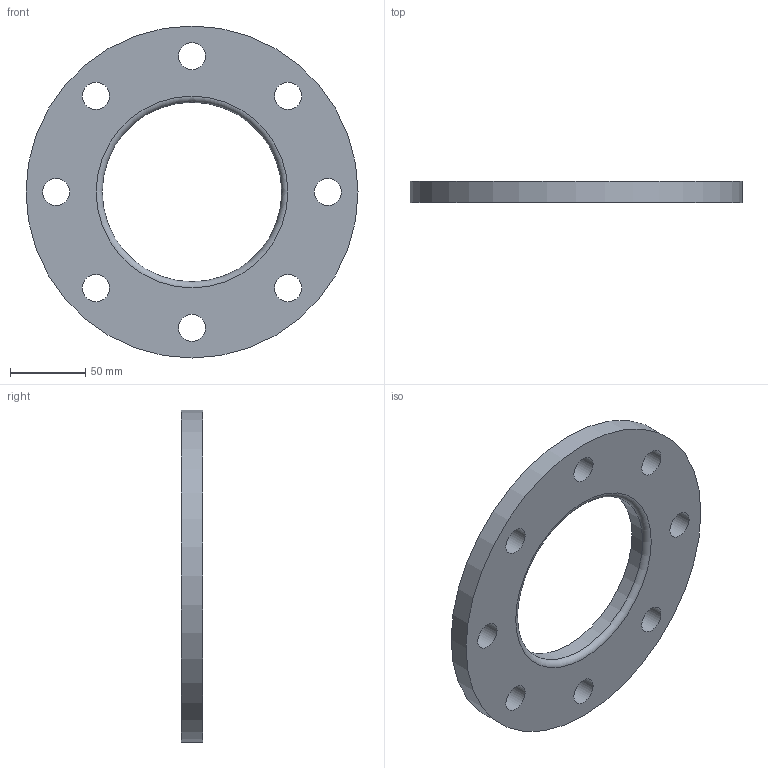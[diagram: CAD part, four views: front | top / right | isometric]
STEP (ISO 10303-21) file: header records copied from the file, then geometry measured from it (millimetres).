
FILE_DESCRIPTION(/* description */ (''),/* implementation_level */ '2;1');
FILE_NAME(/* name */ 'Z:\Geberit\Export\NewStep\367745.stp',/* time_stamp */ '2014-04-02T07:58:16+02:00',/* author */ ('nelson'),/* organization */ (''),/* preprocessor_version */ 'ST-DEVELOPER v15.2',/* originating_system */ 'Autodesk Inventor 2014',/* authorisation */ '');
FILE_SCHEMA (('AUTOMOTIVE_DESIGN { 1 0 10303 214 3 1 1 }'));
Length unit declared in the file: millimetre
Products named in the file (1): 367745
Bounding box: 220 x 14 x 220 mm (x, y, z)
Volume: 346674 mm3; surface area: 70319.7 mm2
Topology: 1 solids, 1 shells, 13 faces, 32 edges, 21 vertices
Faces by surface type: cylinder 10, plane 2, torus 1
Full cylindrical faces by diameter (mm): 18 x8, 119 x1, 220 x1
Entity records: 401 total; most frequent: DIRECTION 70, CARTESIAN_POINT 56, EDGE_LOOP 42, ORIENTED_EDGE 42, AXIS2_PLACEMENT_3D 35, FACE_BOUND 30, CIRCLE 21, VERTEX_POINT 21
